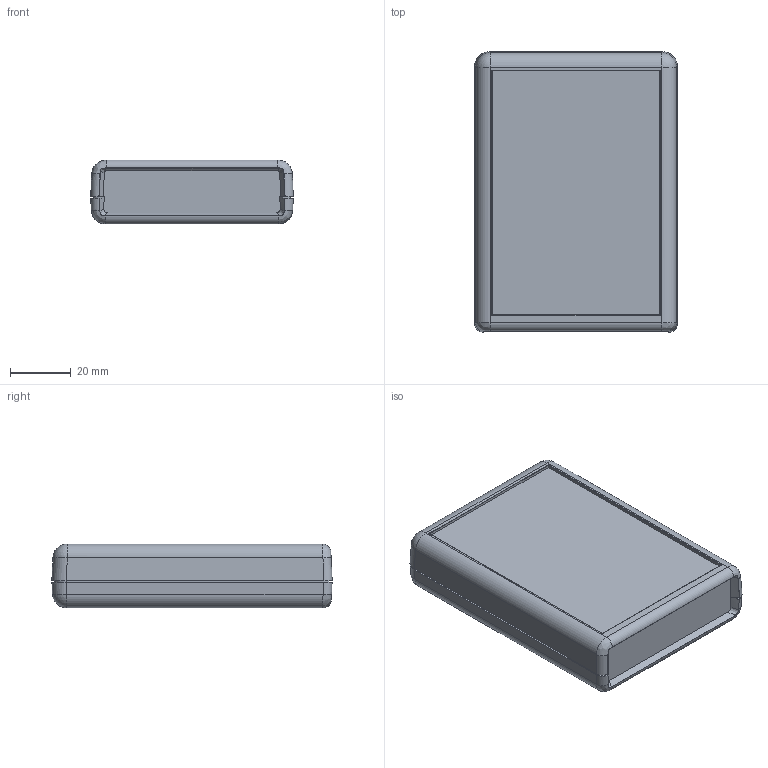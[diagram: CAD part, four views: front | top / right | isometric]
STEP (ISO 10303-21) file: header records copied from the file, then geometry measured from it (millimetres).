
FILE_DESCRIPTION(/* description */ (''),/* implementation_level */ '2;1');
FILE_NAME(/* name */ 'E:\Eng\Customer Service\Drawings\working on 1593\STEP\1593S\1593S.iam.stp',/* time_stamp */ '2016-04-25T15:45:26-04:00',/* author */ ('lwalsh'),/* organization */ (''),/* preprocessor_version */ 'ST-DEVELOPER v16.1',/* originating_system */ 'Autodesk Inventor 2016',/* authorisation */ '');
FILE_SCHEMA (('AUTOMOTIVE_DESIGN { 1 0 10303 214 3 1 1 }'));
Products named in the file (7): 1593P, S Bottom; 1593S Top; 1593S-T Endplate; 1593P,Q,S,T,Y Battery Cover; 1593P,S PCB; #20323; 1593S
Assembly tree (5 placements, depth 2):
  #20323
  1593S
    1593P, S Bottom
    1593S Top
    1593S-T Endplate
    1593P,Q,S,T,Y Battery Cover
    1593P,S PCB
Bounding box: 66.5 x 92 x 21 mm (x, y, z)
Volume: 48135.5 mm3; surface area: 46455.8 mm2
Topology: 9 solids, 9 shells, 729 faces, 1901 edges, 1245 vertices
Faces by surface type: plane 408, cylinder 159, bspline 88, cone 46, sphere 14, torus 14
Full cylindrical faces by diameter (mm): 2.25 x8, 2.311 x4, 2.8 x4, 2.845 x4, 2.9 x8, 3 x4, 3.2 x4, 5.8 x4
Entity records: 20313 total; most frequent: CARTESIAN_POINT 5059, ORIENTED_EDGE 3160, DIRECTION 2916, EDGE_CURVE 1580, VERTEX_POINT 1066, LINE 988, VECTOR 988, AXIS2_PLACEMENT_3D 964
